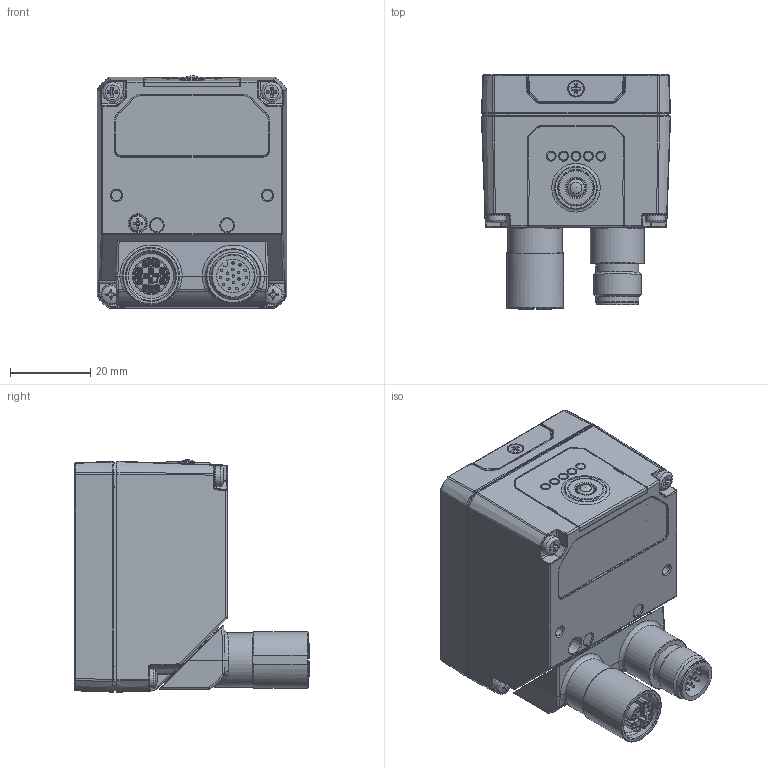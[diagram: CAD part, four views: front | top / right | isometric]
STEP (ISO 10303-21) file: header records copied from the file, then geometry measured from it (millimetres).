
FILE_DESCRIPTION(/* description */ (''),/* implementation_level */ '2;1');
FILE_NAME(/* name */ 'M220-DSD-892-STD-CONN-90.stp',/* time_stamp */ '2018-03-19T10:46:08+01:00',/* author */ (''),/* organization */ (''),/* preprocessor_version */ 'ST-DEVELOPER v16',/* originating_system */ 'SIEMENS PLM Software NX 10.0',/* authorisation */ '');
FILE_SCHEMA (('AP203_CONFIGURATION_CONTROLLED_3D_DESIGN_OF_MECHANICAL_PARTS_AND_ASSEMBLIES_MIM_LF { 1 0 10303 403 2 1 2}'));
Products named in the file (1): mgia1D54DB15tvj4
Bounding box: 47.09 x 58.38 x 57.88 mm (x, y, z)
Volume: 37765.6 mm3; surface area: 45600.1 mm2
Topology: 37 solids, 38 shells, 3059 faces, 7527 edges, 4629 vertices
Faces by surface type: plane 1035, cylinder 907, bspline 487, torus 294, cone 286, sphere 45, extrusion 5
Full cylindrical faces by diameter (mm): 0.6 x34, 1.6 x2, 1.8 x2, 2 x9, 2.05 x4, 2.38 x2, 2.4 x2, 2.5 x6, 2.8 x4, 2.95 x2, 3.2 x2, 3.439 x1, 3.5 x2, 3.6 x4, 3.7 x2, 4 x2, 5 x4, 5.9 x2, 8.75 x1, 8.8 x1, 9 x1, 9.1 x1, 9.5 x2, 9.9 x1, 10.5 x1, 10.7 x1, 10.8 x1, 11.15 x1, 11.85 x1, 12.2 x1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
Entity records: 101092 total; most frequent: CARTESIAN_POINT 32587, ORIENTED_EDGE 14225, DIRECTION 14097, EDGE_CURVE 7121, AXIS2_PLACEMENT_3D 5541, VERTEX_POINT 4505, EDGE_LOOP 3512, ADVANCED_FACE 3059
